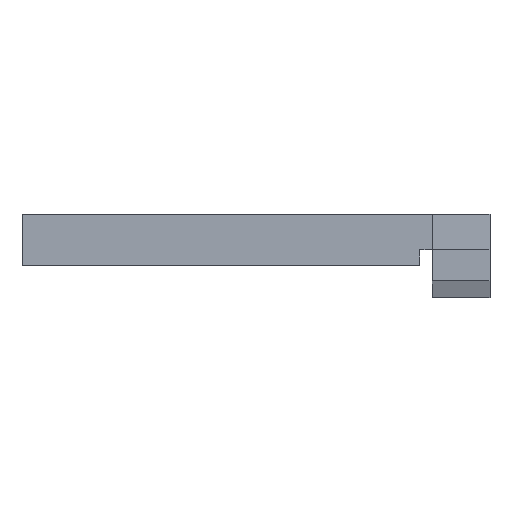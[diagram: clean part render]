
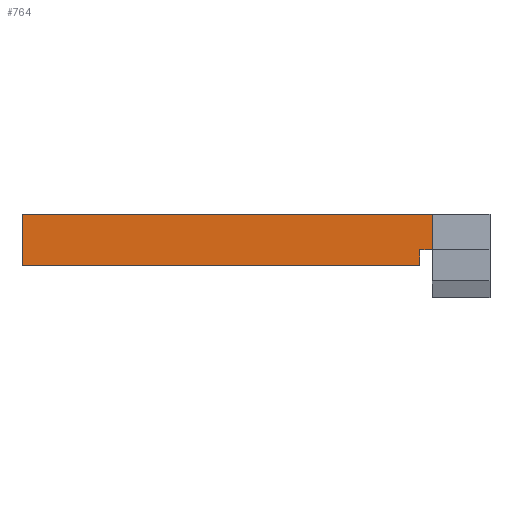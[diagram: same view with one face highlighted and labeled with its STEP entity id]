
A CAD part, front view. The second image highlights one B-rep face of the part: STEP entity #764.
In plain terms, the highlighted planar face has unit normal (0, -1, 0).
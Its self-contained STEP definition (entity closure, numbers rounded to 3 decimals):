
#44 = PLANE('',#45);
#45 = AXIS2_PLACEMENT_3D('',#46,#47,#48);
#46 = CARTESIAN_POINT('',(9.6,50.543,14.341));
#47 = DIRECTION('',(0.,0.046,0.999));
#48 = DIRECTION('',(0.,0.999,-0.046));
#125 = PLANE('',#126);
#126 = AXIS2_PLACEMENT_3D('',#127,#128,#129);
#127 = CARTESIAN_POINT('',(9.2,50.4,13.1));
#128 = DIRECTION('',(0.,0.,1.));
#129 = DIRECTION('',(1.,0.,0.));
#220 = VERTEX_POINT('',#221);
#221 = CARTESIAN_POINT('',(9.6,57.2,14.033));
#235 = PLANE('',#236);
#236 = AXIS2_PLACEMENT_3D('',#237,#238,#239);
#237 = CARTESIAN_POINT('',(9.6,50.459,12.543));
#238 = DIRECTION('',(1.,0.,0.));
#239 = DIRECTION('',(0.,0.999,-0.046));
#343 = VERTEX_POINT('',#344);
#344 = CARTESIAN_POINT('',(11.25,57.2,14.033));
#357 = PLANE('',#358);
#358 = AXIS2_PLACEMENT_3D('',#359,#360,#361);
#359 = CARTESIAN_POINT('',(11.25,57.2,12.6));
#360 = DIRECTION('',(1.,0.,0.));
#361 = DIRECTION('',(0.,0.,1.));
#368 = EDGE_CURVE('',#343,#220,#369,.T.);
#369 = SURFACE_CURVE('',#370,(#374,#380),.PCURVE_S1.);
#370 = LINE('',#371,#372);
#371 = CARTESIAN_POINT('',(3.175,57.2,14.033));
#372 = VECTOR('',#373,1.);
#373 = DIRECTION('',(-1.,0.,0.));
#374 = PCURVE('',#44,#375);
#375 = DEFINITIONAL_REPRESENTATION('',(#376),#379);
#376 = B_SPLINE_CURVE_WITH_KNOTS('',1,(#377,#378),.UNSPECIFIED.,.F.,.F.,
  (2,2),(-8.075,-6.425),.PIECEWISE_BEZIER_KNOTS.);
#377 = CARTESIAN_POINT('',(6.665,-1.65));
#378 = CARTESIAN_POINT('',(6.665,0.));
#379 = ( GEOMETRIC_REPRESENTATION_CONTEXT(2) 
PARAMETRIC_REPRESENTATION_CONTEXT() REPRESENTATION_CONTEXT('2D SPACE',''
  ) );
#380 = PCURVE('',#381,#386);
#381 = PLANE('',#382);
#382 = AXIS2_PLACEMENT_3D('',#383,#384,#385);
#383 = CARTESIAN_POINT('',(-3.25,57.2,12.6));
#384 = DIRECTION('',(0.,1.,0.));
#385 = DIRECTION('',(0.,0.,1.));
#386 = DEFINITIONAL_REPRESENTATION('',(#387),#390);
#387 = B_SPLINE_CURVE_WITH_KNOTS('',1,(#388,#389),.UNSPECIFIED.,.F.,.F.,
  (2,2),(-8.075,-6.425),.PIECEWISE_BEZIER_KNOTS.);
#388 = CARTESIAN_POINT('',(1.433,14.5));
#389 = CARTESIAN_POINT('',(1.433,12.85));
#390 = ( GEOMETRIC_REPRESENTATION_CONTEXT(2) 
PARAMETRIC_REPRESENTATION_CONTEXT() REPRESENTATION_CONTEXT('2D SPACE',''
  ) );
#535 = VERTEX_POINT('',#536);
#536 = CARTESIAN_POINT('',(9.2,57.2,13.1));
#552 = PLANE('',#553);
#553 = AXIS2_PLACEMENT_3D('',#554,#555,#556);
#554 = CARTESIAN_POINT('',(9.2,50.4,11.834));
#555 = DIRECTION('',(1.,0.,0.));
#556 = DIRECTION('',(0.,0.,1.));
#564 = EDGE_CURVE('',#535,#565,#567,.T.);
#565 = VERTEX_POINT('',#566);
#566 = CARTESIAN_POINT('',(9.6,57.2,13.1));
#567 = SURFACE_CURVE('',#568,(#572,#578),.PCURVE_S1.);
#568 = LINE('',#569,#570);
#569 = CARTESIAN_POINT('',(2.975,57.2,13.1));
#570 = VECTOR('',#571,1.);
#571 = DIRECTION('',(1.,0.,0.));
#572 = PCURVE('',#125,#573);
#573 = DEFINITIONAL_REPRESENTATION('',(#574),#577);
#574 = B_SPLINE_CURVE_WITH_KNOTS('',1,(#575,#576),.UNSPECIFIED.,.F.,.F.,
  (2,2),(6.225,8.275),.PIECEWISE_BEZIER_KNOTS.);
#575 = CARTESIAN_POINT('',(0.,6.8));
#576 = CARTESIAN_POINT('',(2.05,6.8));
#577 = ( GEOMETRIC_REPRESENTATION_CONTEXT(2) 
PARAMETRIC_REPRESENTATION_CONTEXT() REPRESENTATION_CONTEXT('2D SPACE',''
  ) );
#578 = PCURVE('',#381,#579);
#579 = DEFINITIONAL_REPRESENTATION('',(#580),#583);
#580 = B_SPLINE_CURVE_WITH_KNOTS('',1,(#581,#582),.UNSPECIFIED.,.F.,.F.,
  (2,2),(6.225,8.275),.PIECEWISE_BEZIER_KNOTS.);
#581 = CARTESIAN_POINT('',(0.5,12.45));
#582 = CARTESIAN_POINT('',(0.5,14.5));
#583 = ( GEOMETRIC_REPRESENTATION_CONTEXT(2) 
PARAMETRIC_REPRESENTATION_CONTEXT() REPRESENTATION_CONTEXT('2D SPACE',''
  ) );
#746 = EDGE_CURVE('',#565,#220,#747,.T.);
#747 = SURFACE_CURVE('',#748,(#752,#758),.PCURVE_S1.);
#748 = LINE('',#749,#750);
#749 = CARTESIAN_POINT('',(9.6,57.2,12.571));
#750 = VECTOR('',#751,1.);
#751 = DIRECTION('',(0.,0.,1.));
#752 = PCURVE('',#235,#753);
#753 = DEFINITIONAL_REPRESENTATION('',(#754),#757);
#754 = B_SPLINE_CURVE_WITH_KNOTS('',1,(#755,#756),.UNSPECIFIED.,.F.,.F.,
  (2,2),(0.029,1.461),.PIECEWISE_BEZIER_KNOTS.);
#755 = CARTESIAN_POINT('',(6.731,0.369));
#756 = CARTESIAN_POINT('',(6.665,1.8));
#757 = ( GEOMETRIC_REPRESENTATION_CONTEXT(2) 
PARAMETRIC_REPRESENTATION_CONTEXT() REPRESENTATION_CONTEXT('2D SPACE',''
  ) );
#758 = PCURVE('',#381,#759);
#759 = DEFINITIONAL_REPRESENTATION('',(#760),#763);
#760 = B_SPLINE_CURVE_WITH_KNOTS('',1,(#761,#762),.UNSPECIFIED.,.F.,.F.,
  (2,2),(0.029,1.461),.PIECEWISE_BEZIER_KNOTS.);
#761 = CARTESIAN_POINT('',(0.,12.85));
#762 = CARTESIAN_POINT('',(1.433,12.85));
#763 = ( GEOMETRIC_REPRESENTATION_CONTEXT(2) 
PARAMETRIC_REPRESENTATION_CONTEXT() REPRESENTATION_CONTEXT('2D SPACE',''
  ) );
#764 = ADVANCED_FACE('',(#765),#381,.F.);
#765 = FACE_BOUND('',#766,.F.);
#766 = EDGE_LOOP('',(#767,#797,#825,#853,#874,#875,#876,#877));
#767 = ORIENTED_EDGE('',*,*,#768,.F.);
#768 = EDGE_CURVE('',#769,#771,#773,.T.);
#769 = VERTEX_POINT('',#770);
#770 = CARTESIAN_POINT('',(-3.25,57.2,12.6));
#771 = VERTEX_POINT('',#772);
#772 = CARTESIAN_POINT('',(9.2,57.2,12.6));
#773 = SURFACE_CURVE('',#774,(#778,#785),.PCURVE_S1.);
#774 = LINE('',#775,#776);
#775 = CARTESIAN_POINT('',(-3.25,57.2,12.6));
#776 = VECTOR('',#777,1.);
#777 = DIRECTION('',(1.,0.,0.));
#778 = PCURVE('',#381,#779);
#779 = DEFINITIONAL_REPRESENTATION('',(#780),#784);
#780 = LINE('',#781,#782);
#781 = CARTESIAN_POINT('',(0.,0.));
#782 = VECTOR('',#783,1.);
#783 = DIRECTION('',(0.,1.));
#784 = ( GEOMETRIC_REPRESENTATION_CONTEXT(2) 
PARAMETRIC_REPRESENTATION_CONTEXT() REPRESENTATION_CONTEXT('2D SPACE',''
  ) );
#785 = PCURVE('',#786,#791);
#786 = PLANE('',#787);
#787 = AXIS2_PLACEMENT_3D('',#788,#789,#790);
#788 = CARTESIAN_POINT('',(-3.25,57.2,12.6));
#789 = DIRECTION('',(0.,0.,1.));
#790 = DIRECTION('',(1.,0.,0.));
#791 = DEFINITIONAL_REPRESENTATION('',(#792),#796);
#792 = LINE('',#793,#794);
#793 = CARTESIAN_POINT('',(0.,0.));
#794 = VECTOR('',#795,1.);
#795 = DIRECTION('',(1.,0.));
#796 = ( GEOMETRIC_REPRESENTATION_CONTEXT(2) 
PARAMETRIC_REPRESENTATION_CONTEXT() REPRESENTATION_CONTEXT('2D SPACE',''
  ) );
#797 = ORIENTED_EDGE('',*,*,#798,.T.);
#798 = EDGE_CURVE('',#769,#799,#801,.T.);
#799 = VERTEX_POINT('',#800);
#800 = CARTESIAN_POINT('',(-3.25,57.2,14.2));
#801 = SURFACE_CURVE('',#802,(#806,#813),.PCURVE_S1.);
#802 = LINE('',#803,#804);
#803 = CARTESIAN_POINT('',(-3.25,57.2,12.6));
#804 = VECTOR('',#805,1.);
#805 = DIRECTION('',(0.,0.,1.));
#806 = PCURVE('',#381,#807);
#807 = DEFINITIONAL_REPRESENTATION('',(#808),#812);
#808 = LINE('',#809,#810);
#809 = CARTESIAN_POINT('',(0.,0.));
#810 = VECTOR('',#811,1.);
#811 = DIRECTION('',(1.,0.));
#812 = ( GEOMETRIC_REPRESENTATION_CONTEXT(2) 
PARAMETRIC_REPRESENTATION_CONTEXT() REPRESENTATION_CONTEXT('2D SPACE',''
  ) );
#813 = PCURVE('',#814,#819);
#814 = PLANE('',#815);
#815 = AXIS2_PLACEMENT_3D('',#816,#817,#818);
#816 = CARTESIAN_POINT('',(-3.25,57.2,12.6));
#817 = DIRECTION('',(1.,0.,0.));
#818 = DIRECTION('',(0.,0.,1.));
#819 = DEFINITIONAL_REPRESENTATION('',(#820),#824);
#820 = LINE('',#821,#822);
#821 = CARTESIAN_POINT('',(0.,0.));
#822 = VECTOR('',#823,1.);
#823 = DIRECTION('',(1.,0.));
#824 = ( GEOMETRIC_REPRESENTATION_CONTEXT(2) 
PARAMETRIC_REPRESENTATION_CONTEXT() REPRESENTATION_CONTEXT('2D SPACE',''
  ) );
#825 = ORIENTED_EDGE('',*,*,#826,.T.);
#826 = EDGE_CURVE('',#799,#827,#829,.T.);
#827 = VERTEX_POINT('',#828);
#828 = CARTESIAN_POINT('',(11.25,57.2,14.2));
#829 = SURFACE_CURVE('',#830,(#834,#841),.PCURVE_S1.);
#830 = LINE('',#831,#832);
#831 = CARTESIAN_POINT('',(-3.25,57.2,14.2));
#832 = VECTOR('',#833,1.);
#833 = DIRECTION('',(1.,0.,0.));
#834 = PCURVE('',#381,#835);
#835 = DEFINITIONAL_REPRESENTATION('',(#836),#840);
#836 = LINE('',#837,#838);
#837 = CARTESIAN_POINT('',(1.6,0.));
#838 = VECTOR('',#839,1.);
#839 = DIRECTION('',(0.,1.));
#840 = ( GEOMETRIC_REPRESENTATION_CONTEXT(2) 
PARAMETRIC_REPRESENTATION_CONTEXT() REPRESENTATION_CONTEXT('2D SPACE',''
  ) );
#841 = PCURVE('',#842,#847);
#842 = PLANE('',#843);
#843 = AXIS2_PLACEMENT_3D('',#844,#845,#846);
#844 = CARTESIAN_POINT('',(-3.25,57.2,14.2));
#845 = DIRECTION('',(0.,0.,1.));
#846 = DIRECTION('',(1.,0.,0.));
#847 = DEFINITIONAL_REPRESENTATION('',(#848),#852);
#848 = LINE('',#849,#850);
#849 = CARTESIAN_POINT('',(0.,0.));
#850 = VECTOR('',#851,1.);
#851 = DIRECTION('',(1.,0.));
#852 = ( GEOMETRIC_REPRESENTATION_CONTEXT(2) 
PARAMETRIC_REPRESENTATION_CONTEXT() REPRESENTATION_CONTEXT('2D SPACE',''
  ) );
#853 = ORIENTED_EDGE('',*,*,#854,.F.);
#854 = EDGE_CURVE('',#343,#827,#855,.T.);
#855 = SURFACE_CURVE('',#856,(#860,#867),.PCURVE_S1.);
#856 = LINE('',#857,#858);
#857 = CARTESIAN_POINT('',(11.25,57.2,12.6));
#858 = VECTOR('',#859,1.);
#859 = DIRECTION('',(0.,0.,1.));
#860 = PCURVE('',#381,#861);
#861 = DEFINITIONAL_REPRESENTATION('',(#862),#866);
#862 = LINE('',#863,#864);
#863 = CARTESIAN_POINT('',(0.,14.5));
#864 = VECTOR('',#865,1.);
#865 = DIRECTION('',(1.,0.));
#866 = ( GEOMETRIC_REPRESENTATION_CONTEXT(2) 
PARAMETRIC_REPRESENTATION_CONTEXT() REPRESENTATION_CONTEXT('2D SPACE',''
  ) );
#867 = PCURVE('',#357,#868);
#868 = DEFINITIONAL_REPRESENTATION('',(#869),#873);
#869 = LINE('',#870,#871);
#870 = CARTESIAN_POINT('',(0.,0.));
#871 = VECTOR('',#872,1.);
#872 = DIRECTION('',(1.,0.));
#873 = ( GEOMETRIC_REPRESENTATION_CONTEXT(2) 
PARAMETRIC_REPRESENTATION_CONTEXT() REPRESENTATION_CONTEXT('2D SPACE',''
  ) );
#874 = ORIENTED_EDGE('',*,*,#368,.T.);
#875 = ORIENTED_EDGE('',*,*,#746,.F.);
#876 = ORIENTED_EDGE('',*,*,#564,.F.);
#877 = ORIENTED_EDGE('',*,*,#878,.T.);
#878 = EDGE_CURVE('',#535,#771,#879,.T.);
#879 = SURFACE_CURVE('',#880,(#884,#890),.PCURVE_S1.);
#880 = LINE('',#881,#882);
#881 = CARTESIAN_POINT('',(9.2,57.2,12.217));
#882 = VECTOR('',#883,1.);
#883 = DIRECTION('',(0.,0.,-1.));
#884 = PCURVE('',#381,#885);
#885 = DEFINITIONAL_REPRESENTATION('',(#886),#889);
#886 = B_SPLINE_CURVE_WITH_KNOTS('',1,(#887,#888),.UNSPECIFIED.,.F.,.F.,
  (2,2),(-0.883,-0.383),.PIECEWISE_BEZIER_KNOTS.);
#887 = CARTESIAN_POINT('',(0.5,12.45));
#888 = CARTESIAN_POINT('',(0.,12.45));
#889 = ( GEOMETRIC_REPRESENTATION_CONTEXT(2) 
PARAMETRIC_REPRESENTATION_CONTEXT() REPRESENTATION_CONTEXT('2D SPACE',''
  ) );
#890 = PCURVE('',#552,#891);
#891 = DEFINITIONAL_REPRESENTATION('',(#892),#895);
#892 = B_SPLINE_CURVE_WITH_KNOTS('',1,(#893,#894),.UNSPECIFIED.,.F.,.F.,
  (2,2),(-0.883,-0.383),.PIECEWISE_BEZIER_KNOTS.);
#893 = CARTESIAN_POINT('',(1.266,-6.8));
#894 = CARTESIAN_POINT('',(0.766,-6.8));
#895 = ( GEOMETRIC_REPRESENTATION_CONTEXT(2) 
PARAMETRIC_REPRESENTATION_CONTEXT() REPRESENTATION_CONTEXT('2D SPACE',''
  ) );
